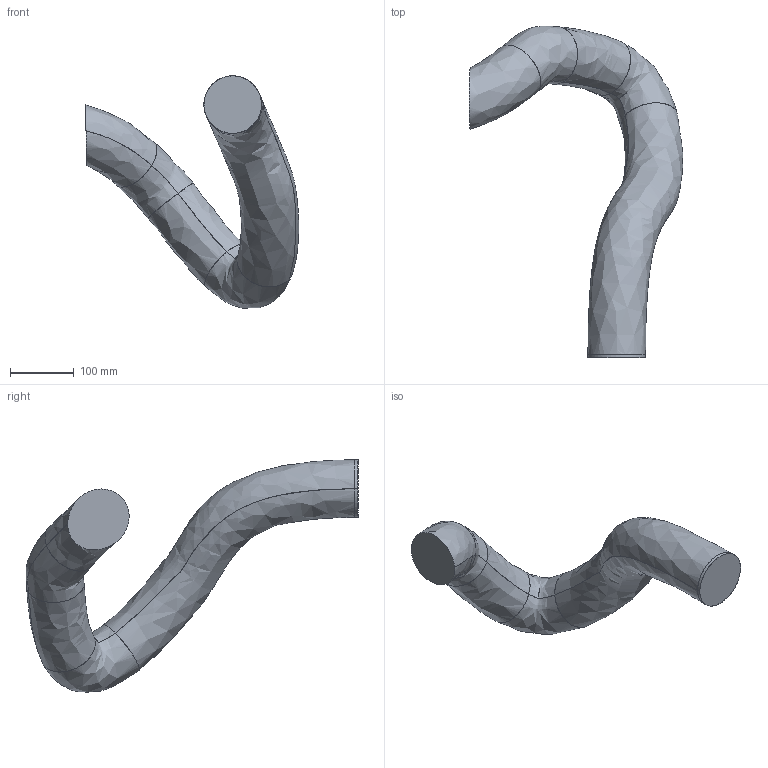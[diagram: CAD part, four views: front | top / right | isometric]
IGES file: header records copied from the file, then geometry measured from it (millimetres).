
Start section: SolidWorks IGES file using analytic representation for surfaces
Global section: file name: C:\Data\SAP_DOC\IRB6740_lightweight\6750S\IRB 6750S ASM\IRB6750S-LID-SW_185kg-390_OC_01_SW_J\IRB6750S-LID-SW_185kg-390_OC_01_IGES_J\IRB6750S-LID_ALL-390-OC_00_LINK05_CABLE.igs; native system: SolidWorks 2024; preprocessor: SolidWorks 2024; author: SEJAOLS6; date: 260513.074108; units: millimetre
Bounding box: 333.7 x 519.09 x 363.23 mm (x, y, z)
Surface area: 274925.5 mm2 (no closed solid volume)
Topology: 0 solids, 0 shells, 14 faces, 234 edges, 234 vertices
Faces by surface type: bspline 12, revolution 2
